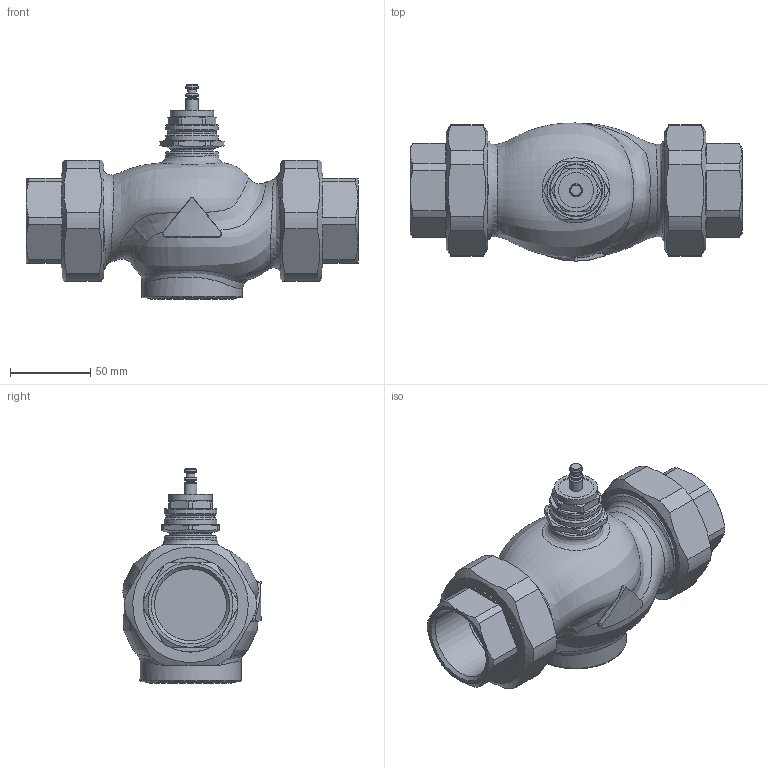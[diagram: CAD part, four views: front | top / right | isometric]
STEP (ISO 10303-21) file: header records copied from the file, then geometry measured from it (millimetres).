
FILE_DESCRIPTION(/* description */ (''),/* implementation_level */ '2;1');
FILE_NAME(/* name */ 'rv111s_dn40_2_T.stp',/* time_stamp */ '2012-02-28T09:36:53+01:00',/* author */ ('KLIMES'),/* organization */ ('LDM'),/* preprocessor_version */ 'ST-DEVELOPER v11',/* originating_system */ 'SIEMENS PLM Software NX 7.0',/* authorisation */ '');
FILE_SCHEMA (('CONFIG_CONTROL_DESIGN'));
Length unit declared in the file: millimetre
Products named in the file (1): klimEAFB3cp3
Bounding box: 207 x 86.15 x 133.9 mm (x, y, z)
Volume: 783342.8 mm3; surface area: 108492.9 mm2
Topology: 7 solids, 7 shells, 221 faces, 512 edges, 323 vertices
Faces by surface type: plane 83, cylinder 59, cone 46, bspline 21, torus 12
Full cylindrical faces by diameter (mm): 5.3 x1, 5.5 x1, 8 x3, 22 x1, 26.5 x1, 27 x1, 33 x3, 44.845 x2, 50 x4, 56 x1, 58.8 x2, 59 x2, 62 x2, 62.6 x2, 62.752 x2, 63 x1, 65.71 x2
Entity records: 11935 total; most frequent: CARTESIAN_POINT 7437, DIRECTION 884, ORIENTED_EDGE 834, EDGE_CURVE 417, AXIS2_PLACEMENT_3D 394, EDGE_LOOP 317, VERTEX_POINT 294, ADVANCED_FACE 221
